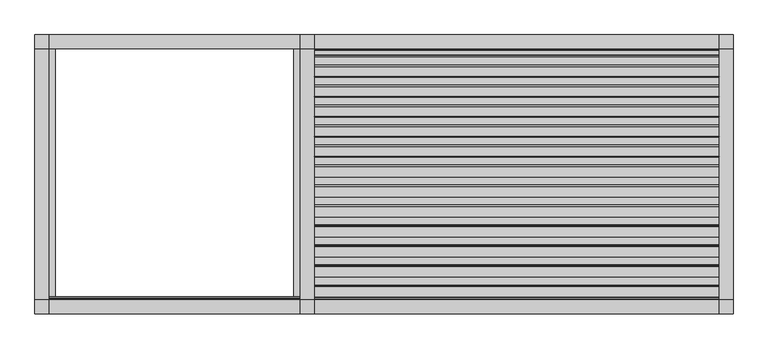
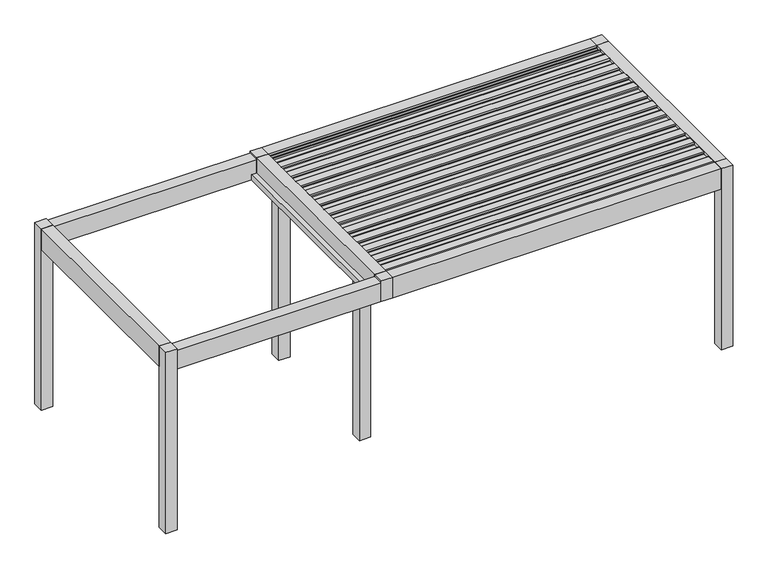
"""IFC4 building model written with IfcOpenShell, lengths in millimetres: proxy geometry, Renson_Amani_Patio_Cover : Renson_Amani_Patio_Cover."""

from ifc_helpers import new_model, si_unit, point, frame, frame_2d, origin, origin_with_axes, place, context, project, spatial, polyline, circle_curve, trimmed, segment, composite_curve, outline, extrude, source, transform, mapped, element, save


def generic_models_05e44dd0(model_context):
    return source(origin(), model_context, "Body", "SweptSolid", [
        extrude(outline(composite_curve([segment(polyline([(-1073.7289238, 2483.35), (-1076.1490335, 2511.01198), (-1104.984284, 2512.3970364), (-1101.5469529, 2531.8911096), (-991.549838, 2526.6075693)]), True, "CONTINUOUS"), segment(trimmed(circle_curve(frame_2d((-992.26951, 2511.6248435)), 15.0), [point((-991.549838, 2526.6075693))], [point((-977.4973937, 2514.2295662))], False, "CARTESIAN"), True, "CONTINUOUS"), segment(polyline([(-977.4973937, 2514.2295662), (-974.1067023, 2495.0), (-886.3709263, 2495.0), (-883.3594689, 2512.0788237), (-868.0824984, 2511.3450182), (-865.6332517, 2483.35), (-1073.7289238, 2483.35)]), True, "CONTINUOUS")], self_intersect=False)), frame((1500.0, 0.0, 0.0), z_axis=(1.0, 0.0, 0.0), x_axis=(0.0, 1.0, 0.0)), (0.0, 0.0, 1.0), 4350.0),
        extrude(outline(composite_curve([segment(polyline([(-858.7132078, 2483.35), (-861.1333174, 2511.01198), (-889.9685679, 2512.3970364), (-886.5312368, 2531.8911096), (-776.534122, 2526.6075693)]), True, "CONTINUOUS"), segment(trimmed(circle_curve(frame_2d((-777.2537939, 2511.6248435)), 15.0), [point((-776.534122, 2526.6075693))], [point((-762.4816776, 2514.2295662))], False, "CARTESIAN"), True, "CONTINUOUS"), segment(polyline([(-762.4816776, 2514.2295662), (-759.0909863, 2495.0), (-671.3552102, 2495.0), (-668.3437528, 2512.0788237), (-653.0667824, 2511.3450182), (-650.6175356, 2483.35), (-858.7132078, 2483.35)]), True, "CONTINUOUS")], self_intersect=False)), frame((1500.0, 0.0, 0.0), z_axis=(1.0, 0.0, 0.0), x_axis=(0.0, 1.0, 0.0)), (0.0, 0.0, 1.0), 4350.0),
        extrude(outline(composite_curve([segment(polyline([(-643.6974917, 2483.35), (-646.1176014, 2511.01198), (-674.9528519, 2512.3970364), (-671.5155208, 2531.8911096), (-561.5184059, 2526.6075693)]), True, "CONTINUOUS"), segment(trimmed(circle_curve(frame_2d((-562.2380779, 2511.6248435)), 15.0), [point((-561.5184059, 2526.6075693))], [point((-547.4659616, 2514.2295662))], False, "CARTESIAN"), True, "CONTINUOUS"), segment(polyline([(-547.4659616, 2514.2295662), (-544.0752702, 2495.0), (-456.3394942, 2495.0), (-453.3280368, 2512.0788237), (-438.0510663, 2511.3450182), (-435.6018196, 2483.35), (-643.6974917, 2483.35)]), True, "CONTINUOUS")], self_intersect=False)), frame((1500.0, 0.0, 0.0), z_axis=(1.0, 0.0, 0.0), x_axis=(0.0, 1.0, 0.0)), (0.0, 0.0, 1.0), 4350.0),
        extrude(outline(composite_curve([segment(polyline([(-428.6817757, 2483.35), (-431.1018854, 2511.01198), (-459.9371358, 2512.3970364), (-456.4998047, 2531.8911096), (-346.5026899, 2526.6075693)]), True, "CONTINUOUS"), segment(trimmed(circle_curve(frame_2d((-347.2223618, 2511.6248435)), 15.0), [point((-346.5026899, 2526.6075693))], [point((-332.4502455, 2514.2295662))], False, "CARTESIAN"), True, "CONTINUOUS"), segment(polyline([(-332.4502455, 2514.2295662), (-329.0595542, 2495.0), (-241.3237782, 2495.0), (-238.3123207, 2512.0788237), (-223.0353503, 2511.3450182), (-220.5861035, 2483.35), (-428.6817757, 2483.35)]), True, "CONTINUOUS")], self_intersect=False)), frame((1500.0, 0.0, 0.0), z_axis=(1.0, 0.0, 0.0), x_axis=(0.0, 1.0, 0.0)), (0.0, 0.0, 1.0), 4350.0),
        extrude(outline(composite_curve([segment(polyline([(-213.6660597, 2483.35), (-216.0861693, 2511.01198), (-244.9214198, 2512.3970364), (-241.4840887, 2531.8911096), (-131.4869738, 2526.6075693)]), True, "CONTINUOUS"), segment(trimmed(circle_curve(frame_2d((-132.2066458, 2511.6248435)), 15.0), [point((-131.4869738, 2526.6075693))], [point((-117.4345295, 2514.2295662))], False, "CARTESIAN"), True, "CONTINUOUS"), segment(polyline([(-117.4345295, 2514.2295662), (-114.0438381, 2495.0), (-26.3080621, 2495.0), (-23.2966047, 2512.0788237), (-8.0196342, 2511.3450182), (-5.5703875, 2483.35), (-213.6660597, 2483.35)]), True, "CONTINUOUS")], self_intersect=False)), frame((1500.0, 0.0, 0.0), z_axis=(1.0, 0.0, 0.0), x_axis=(0.0, 1.0, 0.0)), (0.0, 0.0, 1.0), 4350.0),
        extrude(outline(composite_curve([segment(polyline([(1.3496564, 2483.35), (-1.0704533, 2511.01198), (-29.9057037, 2512.3970364), (-26.4683726, 2531.8911096), (83.5287422, 2526.6075693)]), True, "CONTINUOUS"), segment(trimmed(circle_curve(frame_2d((82.8090703, 2511.6248435)), 15.0), [point((83.5287422, 2526.6075693))], [point((97.5811866, 2514.2295662))], False, "CARTESIAN"), True, "CONTINUOUS"), segment(polyline([(97.5811866, 2514.2295662), (100.9718779, 2495.0), (188.7076539, 2495.0), (191.7191114, 2512.0788237), (206.9960818, 2511.3450182), (209.4453286, 2483.35), (1.3496564, 2483.35)]), True, "CONTINUOUS")], self_intersect=False)), frame((1500.0, 0.0, 0.0), z_axis=(1.0, 0.0, 0.0), x_axis=(0.0, 1.0, 0.0)), (0.0, 0.0, 1.0), 4350.0),
        extrude(outline(composite_curve([segment(polyline([(216.3653724, 2483.35), (213.9452628, 2511.01198), (185.1100123, 2512.3970364), (188.5473434, 2531.8911096), (298.5444582, 2526.6075693)]), True, "CONTINUOUS"), segment(trimmed(circle_curve(frame_2d((297.8247863, 2511.6248435)), 15.0), [point((298.5444582, 2526.6075693))], [point((312.5969026, 2514.2295662))], False, "CARTESIAN"), True, "CONTINUOUS"), segment(polyline([(312.5969026, 2514.2295662), (315.987594, 2495.0), (403.72337, 2495.0), (406.7348274, 2512.0788237), (422.0117979, 2511.3450182), (424.4610446, 2483.35), (216.3653724, 2483.35)]), True, "CONTINUOUS")], self_intersect=False)), frame((1500.0, 0.0, 0.0), z_axis=(1.0, 0.0, 0.0), x_axis=(0.0, 1.0, 0.0)), (0.0, 0.0, 1.0), 4350.0),
        extrude(outline(composite_curve([segment(polyline([(431.3810885, 2483.35), (428.9609788, 2511.01198), (400.1257284, 2512.3970364), (403.5630594, 2531.8911096), (513.5601743, 2526.6075693)]), True, "CONTINUOUS"), segment(trimmed(circle_curve(frame_2d((512.8405024, 2511.6248435)), 15.0), [point((513.5601743, 2526.6075693))], [point((527.6126187, 2514.2295662))], False, "CARTESIAN"), True, "CONTINUOUS"), segment(polyline([(527.6126187, 2514.2295662), (531.00331, 2495.0), (618.739086, 2495.0), (621.7505434, 2512.0788237), (637.0275139, 2511.3450182), (639.4767606, 2483.35), (431.3810885, 2483.35)]), True, "CONTINUOUS")], self_intersect=False)), frame((1500.0, 0.0, 0.0), z_axis=(1.0, 0.0, 0.0), x_axis=(0.0, 1.0, 0.0)), (0.0, 0.0, 1.0), 4350.0),
        extrude(outline(composite_curve([segment(polyline([(646.3968045, 2483.35), (643.9766949, 2511.01198), (615.1414444, 2512.3970364), (618.5787755, 2531.8911096), (728.5758903, 2526.6075693)]), True, "CONTINUOUS"), segment(trimmed(circle_curve(frame_2d((727.8562184, 2511.6248435)), 15.0), [point((728.5758903, 2526.6075693))], [point((742.6283347, 2514.2295662))], False, "CARTESIAN"), True, "CONTINUOUS"), segment(polyline([(742.6283347, 2514.2295662), (746.019026, 2495.0), (833.7548021, 2495.0), (836.7662595, 2512.0788237), (852.04323, 2511.3450182), (854.4924767, 2483.35), (646.3968045, 2483.35)]), True, "CONTINUOUS")], self_intersect=False)), frame((1500.0, 0.0, 0.0), z_axis=(1.0, 0.0, 0.0), x_axis=(0.0, 1.0, 0.0)), (0.0, 0.0, 1.0), 4350.0),
        extrude(outline(composite_curve([segment(polyline([(861.4125206, 2483.35), (858.9924109, 2511.01198), (830.1571605, 2512.3970364), (833.5944915, 2531.8911096), (943.5916064, 2526.6075693)]), True, "CONTINUOUS"), segment(trimmed(circle_curve(frame_2d((942.8719345, 2511.6248435)), 15.0), [point((943.5916064, 2526.6075693))], [point((957.6440508, 2514.2295662))], False, "CARTESIAN"), True, "CONTINUOUS"), segment(polyline([(957.6440508, 2514.2295662), (961.0347421, 2495.0), (1048.7705181, 2495.0), (1051.7819755, 2512.0788237), (1067.058946, 2511.3450182), (1069.5081927, 2483.35), (861.4125206, 2483.35)]), True, "CONTINUOUS")], self_intersect=False)), frame((1500.0, 0.0, 0.0), z_axis=(1.0, 0.0, 0.0), x_axis=(0.0, 1.0, 0.0)), (0.0, 0.0, 1.0), 4350.0),
        extrude(outline(composite_curve([segment(polyline([(-1288.7446399, 2483.35), (-1291.1647495, 2511.01198), (-1320.0, 2512.3970364), (-1316.5626689, 2531.8911096), (-1206.5655541, 2526.6075693)]), True, "CONTINUOUS"), segment(trimmed(circle_curve(frame_2d((-1207.285226, 2511.6248435)), 15.0), [point((-1206.5655541, 2526.6075693))], [point((-1192.5131097, 2514.2295662))], False, "CARTESIAN"), True, "CONTINUOUS"), segment(polyline([(-1192.5131097, 2514.2295662), (-1189.1224184, 2495.0), (-1101.3866423, 2495.0), (-1098.3751849, 2512.0788237), (-1083.0982144, 2511.3450182), (-1080.6489677, 2483.35), (-1288.7446399, 2483.35)]), True, "CONTINUOUS")], self_intersect=False)), frame((1500.0, 0.0, 0.0), z_axis=(1.0, 0.0, 0.0), x_axis=(0.0, 1.0, 0.0)), (0.0, 0.0, 1.0), 4350.0),
        extrude(outline(composite_curve([segment(polyline([(1076.4282366, 2483.35), (1074.008127, 2511.01198), (1045.1728765, 2512.3970364), (1048.6102076, 2531.8911096), (1158.6073224, 2526.6075693)]), True, "CONTINUOUS"), segment(trimmed(circle_curve(frame_2d((1157.8876505, 2511.6248435)), 15.0), [point((1158.6073224, 2526.6075693))], [point((1172.6597668, 2514.2295662))], False, "CARTESIAN"), True, "CONTINUOUS"), segment(polyline([(1172.6597668, 2514.2295662), (1176.0504581, 2495.0), (1263.7862342, 2495.0), (1266.7976916, 2512.0788237), (1282.0746621, 2511.3450182), (1284.5239088, 2483.35), (1076.4282366, 2483.35)]), True, "CONTINUOUS")], self_intersect=False)), frame((1500.0, 0.0, 0.0), z_axis=(1.0, 0.0, 0.0), x_axis=(0.0, 1.0, 0.0)), (0.0, 0.0, 1.0), 4350.0),
        extrude(outline(polyline([(6000.0, 1500.0), (6000.0, 1350.0), (5850.0, 1350.0), (5850.0, 1500.0), (6000.0, 1500.0)])), origin_with_axes(), (0.0, 0.0, 1.0), 2535.0),
        extrude(outline(polyline([(1500.0, 1500.0), (1500.0, 1350.0), (1350.0, 1350.0), (1350.0, 1500.0), (1500.0, 1500.0)])), frame((0.0, 0.0, 2250.0), z_axis=(0.0, 0.0, 1.0), x_axis=(1.0, 0.0, 0.0)), (0.0, 0.0, 1.0), 285.0),
        extrude(outline(polyline([(1500.0, -1350.0), (1500.0, -1500.0), (1350.0, -1500.0), (1350.0, -1350.0), (1500.0, -1350.0)])), frame((0.0, 0.0, 2250.0), z_axis=(0.0, 0.0, 1.0), x_axis=(1.0, 0.0, 0.0)), (0.0, 0.0, 1.0), 285.0),
        extrude(outline(polyline([(6000.0, -1350.0), (6000.0, -1500.0), (5850.0, -1500.0), (5850.0, -1350.0), (6000.0, -1350.0)])), origin_with_axes(), (0.0, 0.0, 1.0), 2535.0),
        extrude(outline(polyline([(1500.0, -850.0), (1500.0, -1000.0), (1350.0, -1000.0), (1350.0, -850.0), (1500.0, -850.0)])), origin_with_axes(), (0.0, 0.0, 1.0), 2250.0),
        extrude(outline(polyline([(1500.0, 1000.0), (1500.0, 850.0), (1350.0, 850.0), (1350.0, 1000.0), (1500.0, 1000.0)])), origin_with_axes(), (0.0, 0.0, 1.0), 2250.0),
        extrude(outline(polyline([(-1350.0, 1350.0), (-1500.0, 1350.0), (-1500.0, 1500.0), (-1350.0, 1500.0), (-1350.0, 1350.0)])), origin_with_axes(), (0.0, 0.0, 1.0), 2535.0),
        extrude(outline(polyline([(-1350.0, -1350.0), (-1350.0, -1500.0), (-1500.0, -1500.0), (-1500.0, -1350.0), (-1350.0, -1350.0)])), origin_with_axes(), (0.0, 0.0, 1.0), 2535.0),
        extrude(outline(polyline([(1350.0, 2466.6559373), (1290.0, 2466.6559373), (1286.2487113, 2480.6555802), (1329.5940945, 2480.6555802), (1345.0, 2496.400763), (1345.0, 2504.2449277), (1350.0, 2504.6823598), (1350.0, 2466.6559373)])), frame((1500.0, 0.0, 0.0), z_axis=(1.0, 0.0, 0.0), x_axis=(0.0, 1.0, 0.0)), (0.0, 0.0, 1.0), 4350.0),
        extrude(outline(polyline([(5850.0, 1500.0), (5850.0, 1350.0), (1500.0, 1350.0), (1500.0, 1500.0), (5850.0, 1500.0)])), frame((0.0, 0.0, 2250.0), z_axis=(0.0, 0.0, 1.0), x_axis=(1.0, 0.0, 0.0)), (0.0, 0.0, 1.0), 285.0),
        extrude(outline(polyline([(-1350.0, 2250.0), (-1500.0, 2250.0), (-1500.0, 2535.0), (-1350.0, 2535.0), (-1350.0, 2504.6823598), (-1345.0, 2504.2449277), (-1345.0, 2496.400763), (-1329.2544156, 2480.6555802), (-1319.9090324, 2480.6555802), (-1323.6603211, 2466.6559373), (-1350.0, 2466.6559373), (-1350.0, 2250.0)])), frame((1500.0, 0.0, 0.0), z_axis=(1.0, 0.0, 0.0), x_axis=(0.0, 1.0, 0.0)), (0.0, 0.0, 1.0), 4350.0),
        extrude(outline(polyline([(2535.0, 1350.0), (2322.0, 1350.0), (2322.0, 1280.0000001), (2250.0, 1280.0000001), (2250.0, 1569.9999999), (2322.0, 1569.9999999), (2322.0, 1500.0), (2535.0, 1500.0), (2535.0, 1350.0)])), frame((0.0, -1350.0, 0.0), z_axis=(0.0, 1.0, 0.0), x_axis=(0.0, 0.0, 1.0)), (0.0, 0.0, 1.0), 2700.0),
        extrude(outline(polyline([(2535.0, 5850.0), (2322.0, 5850.0), (2322.0, 5780.0000001), (2250.0, 5780.0000001), (2250.0, 6000.0), (2535.0, 6000.0), (2535.0, 5850.0)])), frame((0.0, -1350.0, 0.0), z_axis=(0.0, 1.0, 0.0), x_axis=(0.0, 0.0, 1.0)), (0.0, 0.0, 1.0), 2700.0),
        extrude(outline(polyline([(-1350.0, 2510.0), (-1350.0, 2479.6823598), (-1345.0, 2479.2449277), (-1345.0, 2471.400763), (-1329.2544156, 2455.6555802), (-1319.9090324, 2455.6555802), (-1323.6603211, 2441.6559373), (-1350.0, 2441.6559373), (-1350.0, 2250.0), (-1500.0, 2250.0), (-1500.0, 2510.0), (-1350.0, 2510.0)])), frame((-1350.0, 0.0, 0.0), z_axis=(1.0, 0.0, 0.0), x_axis=(0.0, 1.0, 0.0)), (0.0, 0.0, 1.0), 2700.0),
        extrude(outline(polyline([(1350.0, 1500.0), (1350.0, 1350.0), (-1350.0, 1350.0), (-1350.0, 1500.0), (1350.0, 1500.0)])), frame((0.0, 0.0, 2250.0), z_axis=(0.0, 0.0, 1.0), x_axis=(1.0, 0.0, 0.0)), (0.0, 0.0, 1.0), 260.0),
        extrude(outline(polyline([(2535.0, -1350.0), (2535.0, -1500.0), (2250.0, -1500.0), (2250.0, -1280.0000001), (2322.0, -1280.0000001), (2322.0, -1350.0), (2535.0, -1350.0)])), frame((0.0, -1350.0, 0.0), z_axis=(0.0, 1.0, 0.0), x_axis=(0.0, 0.0, 1.0)), (0.0, 0.0, 1.0), 2700.0),
        extrude(outline(polyline([(2250.0, 1500.0), (2535.0, 1500.0), (2535.0, 1350.0), (2322.0, 1350.0), (2322.0, 1280.0000001), (2250.0, 1280.0000001), (2250.0, 1500.0)])), frame((0.0, -1350.0, 0.0), z_axis=(0.0, 1.0, 0.0), x_axis=(0.0, 0.0, 1.0)), (0.0, 0.0, 1.0), 2700.0),
    ])


if __name__ == "__main__":
    model = new_model("IFC4")
    model_context = context("Model", 3, world=origin())
    ifc_project = project(units=[si_unit("LENGTHUNIT", "METRE", prefix="MILLI")], contexts=[model_context])
    site = spatial("IfcSite", under=ifc_project)
    building = spatial("IfcBuilding", under=site)
    placement = place(None, origin())
    generic_models_shape = generic_models_05e44dd0(model_context)
    element("IfcBuildingElementProxy", 1, Name="Renson_Amani_Patio_Cover : Renson_Amani_Patio_Cover", ObjectType="Renson_Amani_Patio_Cover : Renson_Amani_Patio_Cover", at=placement, inside=building, context=model_context, shape_type="MappedRepresentation", body=[
        mapped(generic_models_shape, transform((0.0, 0.0, 0.0), x_axis=(1.0, 0.0, 0.0), y_axis=(0.0, 1.0, 0.0), z_axis=(0.0, 0.0, 1.0))),
    ])
    save(model, "model.ifc")
